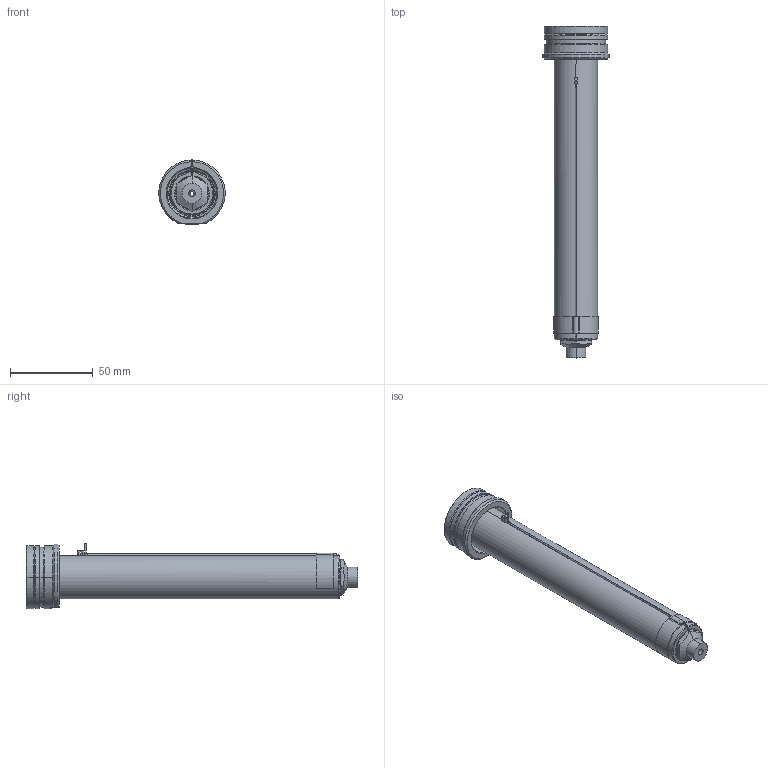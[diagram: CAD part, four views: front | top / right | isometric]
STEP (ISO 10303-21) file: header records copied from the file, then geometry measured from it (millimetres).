
FILE_DESCRIPTION((''),'2;1');
FILE_NAME('EO08_VG-ST_STD_180_SW','2024-02-19T12:43:11',('sundharh'),(''),'CREO PARAMETRIC BY PTC INC, 2023154','CREO PARAMETRIC BY PTC INC, 2023154','');
FILE_SCHEMA(('CONFIG_CONTROL_DESIGN'));
Length unit declared in the file: millimetre
Products named in the file (1): EO08_VG-ST_STD_180_SW
Bounding box: 39.88 x 200 x 39.52 mm (x, y, z)
Volume: 102655.8 mm3; surface area: 27458.3 mm2
Topology: 1 solids, 1 shells, 174 faces, 438 edges, 269 vertices
Faces by surface type: cylinder 64, plane 44, cone 37, torus 19, bspline 8, sphere 2
Entity records: 6556 total; most frequent: CARTESIAN_POINT 2292, DIRECTION 941, ORIENTED_EDGE 868, EDGE_CURVE 434, AXIS2_PLACEMENT_3D 390, VERTEX_POINT 269, CIRCLE 224, EDGE_LOOP 189
